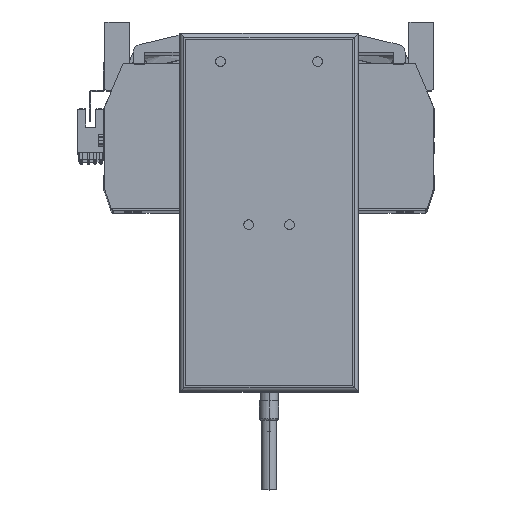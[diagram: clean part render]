
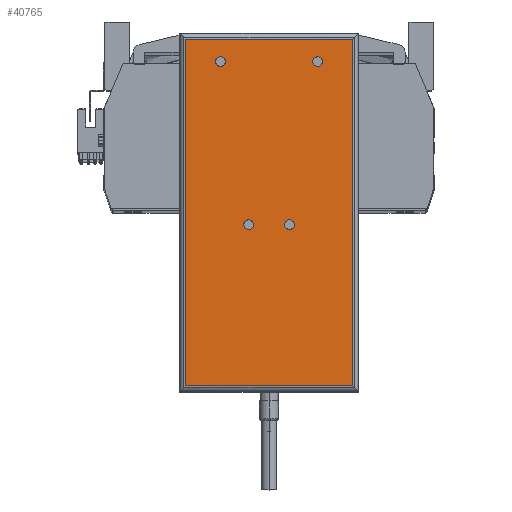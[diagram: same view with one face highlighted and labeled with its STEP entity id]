
A CAD part, top view. The second image highlights one B-rep face of the part: STEP entity #40765.
In plain terms, the highlighted planar face has unit normal (0, 0, 1) as drawn and (0, 0, -1) by its records, which use the part's own axes.
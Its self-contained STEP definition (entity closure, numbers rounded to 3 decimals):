
#709 = ORIENTED_EDGE ( 'NONE', *, *, #14547, .T. ) ;
#893 = DIRECTION ( 'NONE',  ( -1., 0., 0. ) ) ;
#1132 = CIRCLE ( 'NONE', #26712, 2.5 ) ;
#1214 = AXIS2_PLACEMENT_3D ( 'NONE', #40144, #48392, #24093 ) ;
#1982 = AXIS2_PLACEMENT_3D ( 'NONE', #37091, #12499, #893 ) ;
#2182 = CARTESIAN_POINT ( 'NONE',  ( 43., -92.25, 0. ) ) ;
#2919 = VERTEX_POINT ( 'NONE', #47113 ) ;
#2967 = DIRECTION ( 'NONE',  ( -1., 0., 0. ) ) ;
#3722 = CARTESIAN_POINT ( 'NONE',  ( 22.5, 77.75, 0. ) ) ;
#4024 = DIRECTION ( 'NONE',  ( 0., 0., 1. ) ) ;
#4129 = VERTEX_POINT ( 'NONE', #11169 ) ;
#4296 = AXIS2_PLACEMENT_3D ( 'NONE', #33441, #17200, #37644 ) ;
#4484 = DIRECTION ( 'NONE',  ( 0., 0., -1. ) ) ;
#5541 = DIRECTION ( 'NONE',  ( 0., 0., -1. ) ) ;
#5725 = ORIENTED_EDGE ( 'NONE', *, *, #18653, .F. ) ;
#6360 = ORIENTED_EDGE ( 'NONE', *, *, #22027, .T. ) ;
#6683 = VERTEX_POINT ( 'NONE', #22163 ) ;
#6748 = EDGE_CURVE ( 'NONE', #10297, #30326, #47425, .T. ) ;
#7091 = EDGE_CURVE ( 'NONE', #35369, #12105, #40969, .T. ) ;
#7281 = ORIENTED_EDGE ( 'NONE', *, *, #49227, .F. ) ;
#8962 = CARTESIAN_POINT ( 'NONE',  ( -43., 89.25, 0. ) ) ;
#8974 = CARTESIAN_POINT ( 'NONE',  ( -25., 77.75, 0. ) ) ;
#9815 = CARTESIAN_POINT ( 'NONE',  ( -10.5, -6.25, 0. ) ) ;
#10253 = EDGE_CURVE ( 'NONE', #21118, #51768, #32013, .T. ) ;
#10297 = VERTEX_POINT ( 'NONE', #8962 ) ;
#10463 = ORIENTED_EDGE ( 'NONE', *, *, #41510, .F. ) ;
#11137 = CIRCLE ( 'NONE', #4296, 2.5 ) ;
#11169 = CARTESIAN_POINT ( 'NONE',  ( -43., -89.25, 0. ) ) ;
#12105 = VERTEX_POINT ( 'NONE', #3722 ) ;
#12244 = CIRCLE ( 'NONE', #26232, 2.5 ) ;
#12499 = DIRECTION ( 'NONE',  ( 0., 0., -1. ) ) ;
#12594 = CIRCLE ( 'NONE', #1214, 2.5 ) ;
#13568 = VECTOR ( 'NONE', #30002, 1000. ) ;
#13628 = CARTESIAN_POINT ( 'NONE',  ( 25., 77.75, 0. ) ) ;
#14009 = EDGE_LOOP ( 'NONE', ( #25615, #6360, #709, #21270 ) ) ;
#14547 = EDGE_CURVE ( 'NONE', #4129, #10297, #25153, .T. ) ;
#14636 = LINE ( 'NONE', #43189, #36439 ) ;
#14659 = AXIS2_PLACEMENT_3D ( 'NONE', #47439, #4024, #23480 ) ;
#14894 = CIRCLE ( 'NONE', #17726, 2.5 ) ;
#15963 = AXIS2_PLACEMENT_3D ( 'NONE', #8974, #21073, #49024 ) ;
#16340 = CIRCLE ( 'NONE', #15963, 2.5 ) ;
#16533 = EDGE_CURVE ( 'NONE', #36565, #36338, #12594, .T. ) ;
#17200 = DIRECTION ( 'NONE',  ( 0., 0., -1. ) ) ;
#17456 = CARTESIAN_POINT ( 'NONE',  ( 27.5, 77.75, 0. ) ) ;
#17620 = DIRECTION ( 'NONE',  ( -1., 0., 0. ) ) ;
#17726 = AXIS2_PLACEMENT_3D ( 'NONE', #13628, #5541, #17620 ) ;
#17886 = DIRECTION ( 'NONE',  ( -1., 0., 0. ) ) ;
#18653 = EDGE_CURVE ( 'NONE', #36338, #36565, #11137, .T. ) ;
#18688 = FACE_BOUND ( 'NONE', #38225, .T. ) ;
#19446 = PLANE ( 'NONE',  #14659 ) ;
#21073 = DIRECTION ( 'NONE',  ( 0., 0., -1. ) ) ;
#21118 = VERTEX_POINT ( 'NONE', #38923 ) ;
#21270 = ORIENTED_EDGE ( 'NONE', *, *, #6748, .T. ) ;
#21406 = CARTESIAN_POINT ( 'NONE',  ( 25., 77.75, 0. ) ) ;
#21473 = CARTESIAN_POINT ( 'NONE',  ( -43., -92.25, 0. ) ) ;
#22027 = EDGE_CURVE ( 'NONE', #51678, #4129, #14636, .T. ) ;
#22163 = CARTESIAN_POINT ( 'NONE',  ( -27.5, 77.75, 0. ) ) ;
#23480 = DIRECTION ( 'NONE',  ( 1., 0., 0. ) ) ;
#24093 = DIRECTION ( 'NONE',  ( -1., 0., 0. ) ) ;
#24942 = FACE_BOUND ( 'NONE', #33077, .T. ) ;
#25153 = LINE ( 'NONE', #21473, #32671 ) ;
#25615 = ORIENTED_EDGE ( 'NONE', *, *, #48872, .T. ) ;
#26166 = FACE_OUTER_BOUND ( 'NONE', #14009, .T. ) ;
#26232 = AXIS2_PLACEMENT_3D ( 'NONE', #32133, #4484, #28423 ) ;
#26712 = AXIS2_PLACEMENT_3D ( 'NONE', #9815, #41994, #17886 ) ;
#28161 = ORIENTED_EDGE ( 'NONE', *, *, #16533, .F. ) ;
#28423 = DIRECTION ( 'NONE',  ( -1., 0., 0. ) ) ;
#30002 = DIRECTION ( 'NONE',  ( 1., 0., 0. ) ) ;
#30326 = VERTEX_POINT ( 'NONE', #35274 ) ;
#32013 = CIRCLE ( 'NONE', #1982, 2.5 ) ;
#32133 = CARTESIAN_POINT ( 'NONE',  ( -25., 77.75, 0. ) ) ;
#32168 = ORIENTED_EDGE ( 'NONE', *, *, #7091, .F. ) ;
#32611 = VECTOR ( 'NONE', #34362, 1000. ) ;
#32671 = VECTOR ( 'NONE', #49804, 1000. ) ;
#33077 = EDGE_LOOP ( 'NONE', ( #28161, #5725 ) ) ;
#33441 = CARTESIAN_POINT ( 'NONE',  ( 10.5, -6.25, 0. ) ) ;
#33528 = EDGE_LOOP ( 'NONE', ( #10463, #32168 ) ) ;
#34362 = DIRECTION ( 'NONE',  ( 0., -1., 0. ) ) ;
#34723 = ORIENTED_EDGE ( 'NONE', *, *, #10253, .F. ) ;
#35274 = CARTESIAN_POINT ( 'NONE',  ( 43., 89.25, 0. ) ) ;
#35369 = VERTEX_POINT ( 'NONE', #17456 ) ;
#35861 = CARTESIAN_POINT ( 'NONE',  ( 13., -6.25, 0. ) ) ;
#36338 = VERTEX_POINT ( 'NONE', #35861 ) ;
#36439 = VECTOR ( 'NONE', #2967, 1000. ) ;
#36565 = VERTEX_POINT ( 'NONE', #45810 ) ;
#36897 = CARTESIAN_POINT ( 'NONE',  ( 43., -89.25, 0. ) ) ;
#37058 = AXIS2_PLACEMENT_3D ( 'NONE', #21406, #49557, #49380 ) ;
#37091 = CARTESIAN_POINT ( 'NONE',  ( -10.5, -6.25, 0. ) ) ;
#37222 = EDGE_CURVE ( 'NONE', #2919, #6683, #12244, .T. ) ;
#37644 = DIRECTION ( 'NONE',  ( -1., 0., 0. ) ) ;
#38225 = EDGE_LOOP ( 'NONE', ( #7281, #42103 ) ) ;
#38923 = CARTESIAN_POINT ( 'NONE',  ( -13., -6.25, 0. ) ) ;
#40144 = CARTESIAN_POINT ( 'NONE',  ( 10.5, -6.25, 0. ) ) ;
#40578 = FACE_BOUND ( 'NONE', #47009, .T. ) ;
#40765 = ADVANCED_FACE ( 'NONE', ( #26166, #40578, #24942, #18688, #51277 ), #19446, .F. ) ;
#40969 = CIRCLE ( 'NONE', #37058, 2.5 ) ;
#41510 = EDGE_CURVE ( 'NONE', #12105, #35369, #14894, .T. ) ;
#41994 = DIRECTION ( 'NONE',  ( 0., 0., -1. ) ) ;
#42103 = ORIENTED_EDGE ( 'NONE', *, *, #37222, .F. ) ;
#43189 = CARTESIAN_POINT ( 'NONE',  ( -46., -89.25, 0. ) ) ;
#44767 = ORIENTED_EDGE ( 'NONE', *, *, #51752, .F. ) ;
#45810 = CARTESIAN_POINT ( 'NONE',  ( 8., -6.25, 0. ) ) ;
#47009 = EDGE_LOOP ( 'NONE', ( #34723, #44767 ) ) ;
#47113 = CARTESIAN_POINT ( 'NONE',  ( -22.5, 77.75, 0. ) ) ;
#47425 = LINE ( 'NONE', #49627, #13568 ) ;
#47439 = CARTESIAN_POINT ( 'NONE',  ( -46., -92.25, 0. ) ) ;
#47644 = LINE ( 'NONE', #2182, #32611 ) ;
#48392 = DIRECTION ( 'NONE',  ( 0., 0., -1. ) ) ;
#48872 = EDGE_CURVE ( 'NONE', #30326, #51678, #47644, .T. ) ;
#49024 = DIRECTION ( 'NONE',  ( -1., 0., 0. ) ) ;
#49227 = EDGE_CURVE ( 'NONE', #6683, #2919, #16340, .T. ) ;
#49380 = DIRECTION ( 'NONE',  ( -1., 0., 0. ) ) ;
#49557 = DIRECTION ( 'NONE',  ( 0., 0., -1. ) ) ;
#49627 = CARTESIAN_POINT ( 'NONE',  ( -46., 89.25, 0. ) ) ;
#49725 = CARTESIAN_POINT ( 'NONE',  ( -8., -6.25, 0. ) ) ;
#49804 = DIRECTION ( 'NONE',  ( 0., 1., 0. ) ) ;
#51277 = FACE_BOUND ( 'NONE', #33528, .T. ) ;
#51678 = VERTEX_POINT ( 'NONE', #36897 ) ;
#51752 = EDGE_CURVE ( 'NONE', #51768, #21118, #1132, .T. ) ;
#51768 = VERTEX_POINT ( 'NONE', #49725 ) ;
